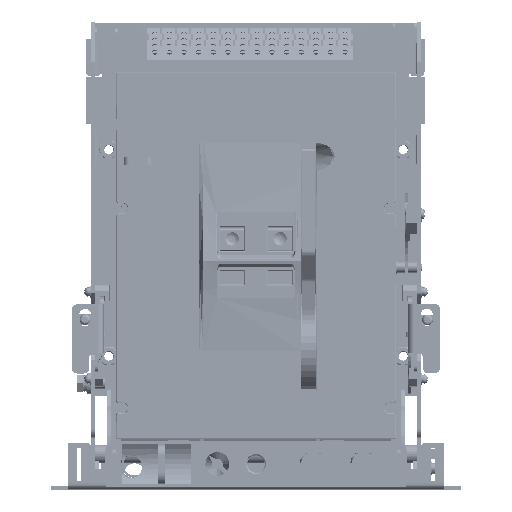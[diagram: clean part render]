
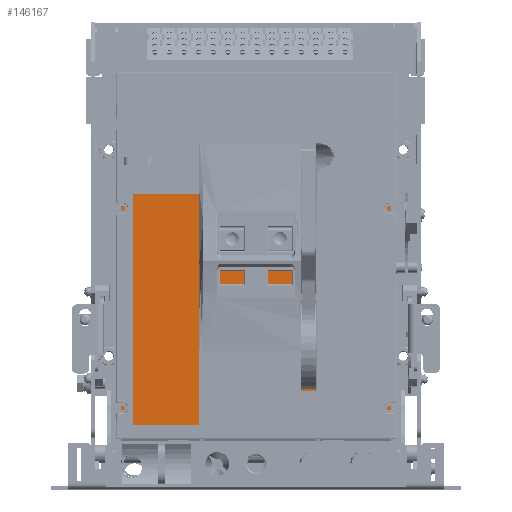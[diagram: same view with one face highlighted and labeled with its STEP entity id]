
A CAD part, top view. The second image highlights one B-rep face of the part: STEP entity #146167.
In plain terms, the highlighted planar face has unit normal (0, 0, 1) as drawn and (0, -1, 0) by its records, which use the part's own axes.
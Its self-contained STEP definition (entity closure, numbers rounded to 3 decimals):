
#140887=DIRECTION('',(-1.,0.,0.));
#140888=VECTOR('',#140887,202.);
#140889=CARTESIAN_POINT('',(101.,0.,-114.));
#140890=LINE('',#140889,#140888);
#140894=DIRECTION('',(0.,0.,-1.));
#140895=VECTOR('',#140894,228.);
#140896=CARTESIAN_POINT('',(-101.,0.,114.));
#140897=LINE('',#140896,#140895);
#140901=DIRECTION('',(1.,0.,0.));
#140902=VECTOR('',#140901,202.);
#140903=CARTESIAN_POINT('',(-101.,0.,114.));
#140904=LINE('',#140903,#140902);
#140908=DIRECTION('',(0.,0.,-1.));
#140909=VECTOR('',#140908,228.);
#140910=CARTESIAN_POINT('',(101.,0.,114.));
#140911=LINE('',#140910,#140909);
#142294=CARTESIAN_POINT('',(101.,0.,114.));
#142295=CARTESIAN_POINT('',(101.,0.,-114.));
#142296=VERTEX_POINT('',#142294);
#142297=VERTEX_POINT('',#142295);
#142298=CARTESIAN_POINT('',(-101.,0.,114.));
#142299=CARTESIAN_POINT('',(-101.,0.,-114.));
#142300=VERTEX_POINT('',#142298);
#142301=VERTEX_POINT('',#142299);
#146153=CARTESIAN_POINT('',(0.,0.,0.));
#146154=DIRECTION('',(0.,1.,0.));
#146155=DIRECTION('',(1.,0.,0.));
#146156=AXIS2_PLACEMENT_3D('',#146153,#146154,#146155);
#146157=PLANE('',#146156);
#146159=ORIENTED_EDGE('',*,*,#146158,.T.);
#146161=ORIENTED_EDGE('',*,*,#146160,.F.);
#146162=ORIENTED_EDGE('',*,*,#146134,.T.);
#146164=ORIENTED_EDGE('',*,*,#146163,.T.);
#146165=EDGE_LOOP('',(#146159,#146161,#146162,#146164));
#146166=FACE_OUTER_BOUND('',#146165,.F.);
#146167=ADVANCED_FACE('',(#146166),#146157,.F.);
#146134=EDGE_CURVE('',#142300,#142296,#140904,.T.);
#146158=EDGE_CURVE('',#142297,#142301,#140890,.T.);
#146160=EDGE_CURVE('',#142300,#142301,#140897,.T.);
#146163=EDGE_CURVE('',#142296,#142297,#140911,.T.);
